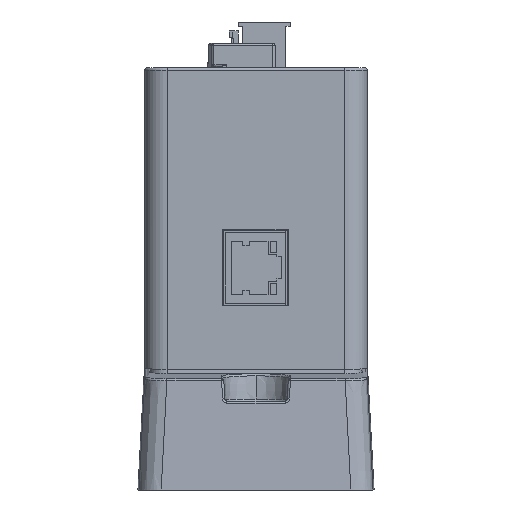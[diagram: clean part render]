
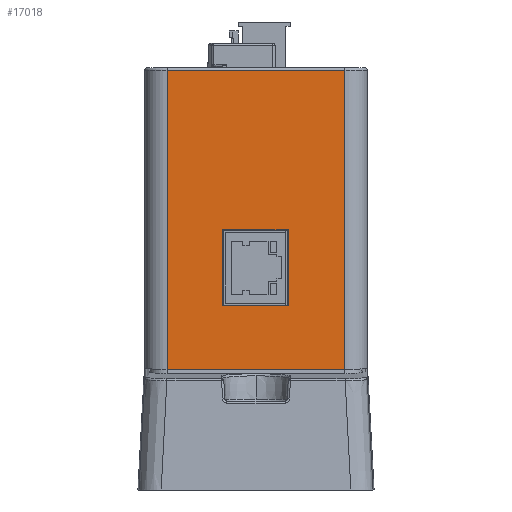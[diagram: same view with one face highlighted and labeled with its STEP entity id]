
A CAD part, left-side view. The second image highlights one B-rep face of the part: STEP entity #17018.
In plain terms, the highlighted planar face has unit normal (-1, 0, 0).
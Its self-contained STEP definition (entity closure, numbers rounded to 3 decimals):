
#1361 = ORIENTED_EDGE ( 'NONE', *, *, #39237, .F. ) ;
#3701 = ORIENTED_EDGE ( 'NONE', *, *, #46519, .T. ) ;
#3759 = VERTEX_POINT ( 'NONE', #68355 ) ;
#3933 = LINE ( 'NONE', #60706, #7800 ) ;
#3997 = DIRECTION ( 'NONE',  ( 0., 0., 1. ) ) ;
#5203 = VECTOR ( 'NONE', #3997, 1000. ) ;
#6364 = EDGE_CURVE ( 'NONE', #11894, #90196, #53257, .T. ) ;
#6770 = VERTEX_POINT ( 'NONE', #37266 ) ;
#7141 = ORIENTED_EDGE ( 'NONE', *, *, #23613, .F. ) ;
#7800 = VECTOR ( 'NONE', #16920, 1000. ) ;
#9333 = CARTESIAN_POINT ( 'NONE',  ( -110., -7.222, 41.411 ) ) ;
#10449 = VERTEX_POINT ( 'NONE', #15123 ) ;
#10769 = CARTESIAN_POINT ( 'NONE',  ( -110., 7.522, 41.552 ) ) ;
#11883 = CARTESIAN_POINT ( 'NONE',  ( -110., 0., 58.608 ) ) ;
#11894 = VERTEX_POINT ( 'NONE', #48851 ) ;
#15123 = CARTESIAN_POINT ( 'NONE',  ( -110., -7.225, 58.608 ) ) ;
#16920 = DIRECTION ( 'NONE',  ( 0., 0., -1. ) ) ;
#17018 = ADVANCED_FACE ( 'NONE', ( #19411, #32403 ), #84210, .F. ) ;
#17130 = VECTOR ( 'NONE', #68654, 1000. ) ;
#19411 = FACE_BOUND ( 'NONE', #60276, .T. ) ;
#19453 = VERTEX_POINT ( 'NONE', #95851 ) ;
#20793 = EDGE_CURVE ( 'NONE', #3759, #6770, #42697, .T. ) ;
#22459 = CARTESIAN_POINT ( 'NONE',  ( -110., -7.231, 92. ) ) ;
#23613 = EDGE_CURVE ( 'NONE', #96923, #19453, #67539, .T. ) ;
#27289 = VECTOR ( 'NONE', #55709, 1000. ) ;
#31572 = VECTOR ( 'NONE', #71186, 1000. ) ;
#31896 = EDGE_LOOP ( 'NONE', ( #46844, #52637, #3701, #87276 ) ) ;
#32403 = FACE_OUTER_BOUND ( 'NONE', #31896, .T. ) ;
#36758 = DIRECTION ( 'NONE',  ( 0., -1., 0. ) ) ;
#37266 = CARTESIAN_POINT ( 'NONE',  ( -110., 20., 94.5 ) ) ;
#39237 = EDGE_CURVE ( 'NONE', #19453, #39464, #62743, .T. ) ;
#39445 = VECTOR ( 'NONE', #54542, 1000. ) ;
#39464 = VERTEX_POINT ( 'NONE', #9333 ) ;
#40516 = CARTESIAN_POINT ( 'NONE',  ( -110., -25., 95. ) ) ;
#42697 = LINE ( 'NONE', #99389, #27289 ) ;
#46519 = EDGE_CURVE ( 'NONE', #6770, #11894, #3933, .T. ) ;
#46844 = ORIENTED_EDGE ( 'NONE', *, *, #59371, .T. ) ;
#47855 = CARTESIAN_POINT ( 'NONE',  ( -110., -20., 95. ) ) ;
#48851 = CARTESIAN_POINT ( 'NONE',  ( -110., 20., 27.132 ) ) ;
#49078 = EDGE_CURVE ( 'NONE', #39464, #10449, #84010, .T. ) ;
#49818 = CARTESIAN_POINT ( 'NONE',  ( -110., 0., 41.411 ) ) ;
#52637 = ORIENTED_EDGE ( 'NONE', *, *, #20793, .T. ) ;
#53257 = LINE ( 'NONE', #83939, #61519 ) ;
#53535 = DIRECTION ( 'NONE',  ( 0., 0., -1. ) ) ;
#53896 = ORIENTED_EDGE ( 'NONE', *, *, #49078, .F. ) ;
#54542 = DIRECTION ( 'NONE',  ( 0., 0., -1. ) ) ;
#55653 = LINE ( 'NONE', #11883, #17130 ) ;
#55709 = DIRECTION ( 'NONE',  ( 0., 1., 0. ) ) ;
#59371 = EDGE_CURVE ( 'NONE', #90196, #3759, #91476, .T. ) ;
#60276 = EDGE_LOOP ( 'NONE', ( #53896, #1361, #7141, #81383 ) ) ;
#60706 = CARTESIAN_POINT ( 'NONE',  ( -110., 20., 95. ) ) ;
#61519 = VECTOR ( 'NONE', #77227, 1000. ) ;
#62743 = LINE ( 'NONE', #49818, #99418 ) ;
#67539 = LINE ( 'NONE', #10769, #39445 ) ;
#68355 = CARTESIAN_POINT ( 'NONE',  ( -110., -20., 94.5 ) ) ;
#68654 = DIRECTION ( 'NONE',  ( 0., 1., 0. ) ) ;
#71186 = DIRECTION ( 'NONE',  ( 0., 0., 1. ) ) ;
#73137 = AXIS2_PLACEMENT_3D ( 'NONE', #40516, #97191, #53535 ) ;
#77227 = DIRECTION ( 'NONE',  ( 0., -1., 0. ) ) ;
#81383 = ORIENTED_EDGE ( 'NONE', *, *, #89982, .F. ) ;
#83939 = CARTESIAN_POINT ( 'NONE',  ( -110., 0., 27.132 ) ) ;
#84010 = LINE ( 'NONE', #22459, #31572 ) ;
#84210 = PLANE ( 'NONE',  #73137 ) ;
#87276 = ORIENTED_EDGE ( 'NONE', *, *, #6364, .T. ) ;
#89917 = CARTESIAN_POINT ( 'NONE',  ( -110., 7.525, 58.608 ) ) ;
#89982 = EDGE_CURVE ( 'NONE', #10449, #96923, #55653, .T. ) ;
#90196 = VERTEX_POINT ( 'NONE', #92120 ) ;
#91476 = LINE ( 'NONE', #47855, #5203 ) ;
#92120 = CARTESIAN_POINT ( 'NONE',  ( -110., -20., 27.132 ) ) ;
#95851 = CARTESIAN_POINT ( 'NONE',  ( -110., 7.522, 41.411 ) ) ;
#96923 = VERTEX_POINT ( 'NONE', #89917 ) ;
#97191 = DIRECTION ( 'NONE',  ( 1., 0., 0. ) ) ;
#99389 = CARTESIAN_POINT ( 'NONE',  ( -110., -25., 94.5 ) ) ;
#99418 = VECTOR ( 'NONE', #36758, 1000. ) ;
